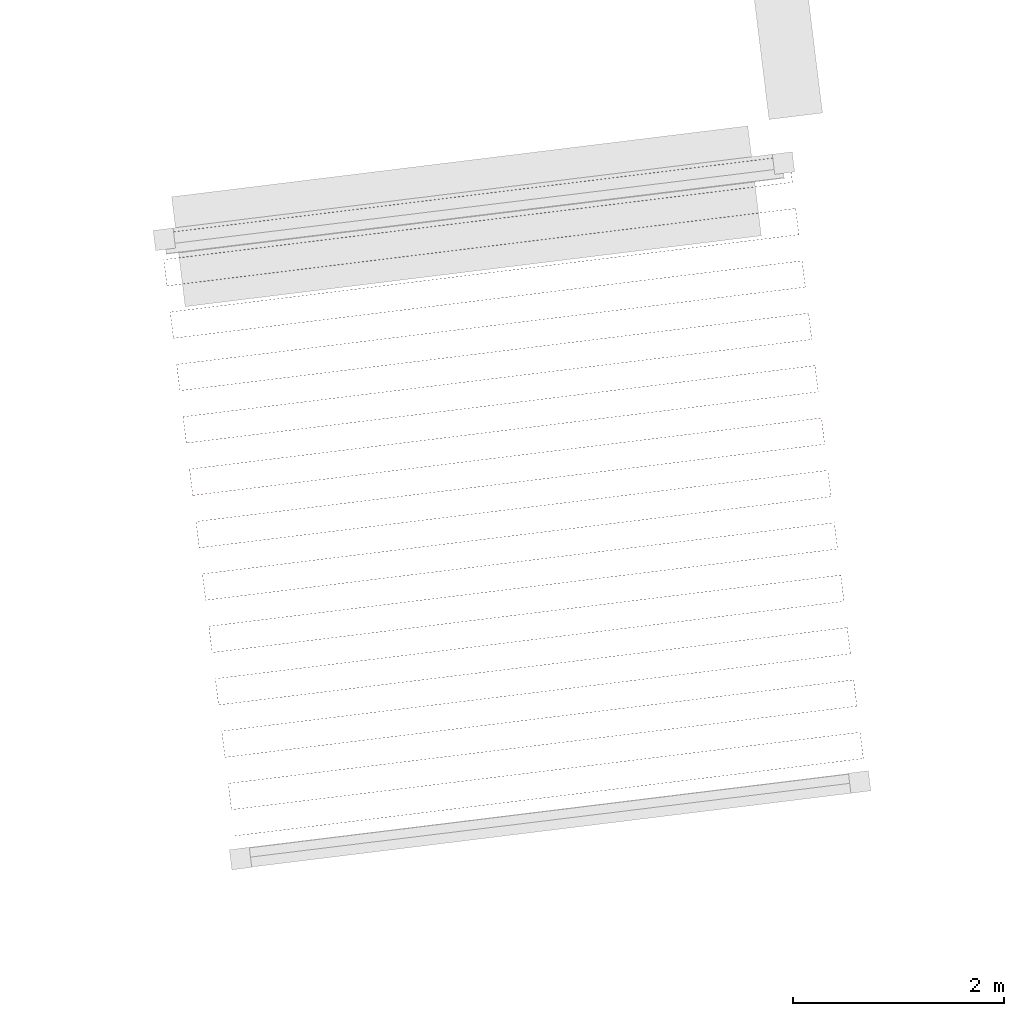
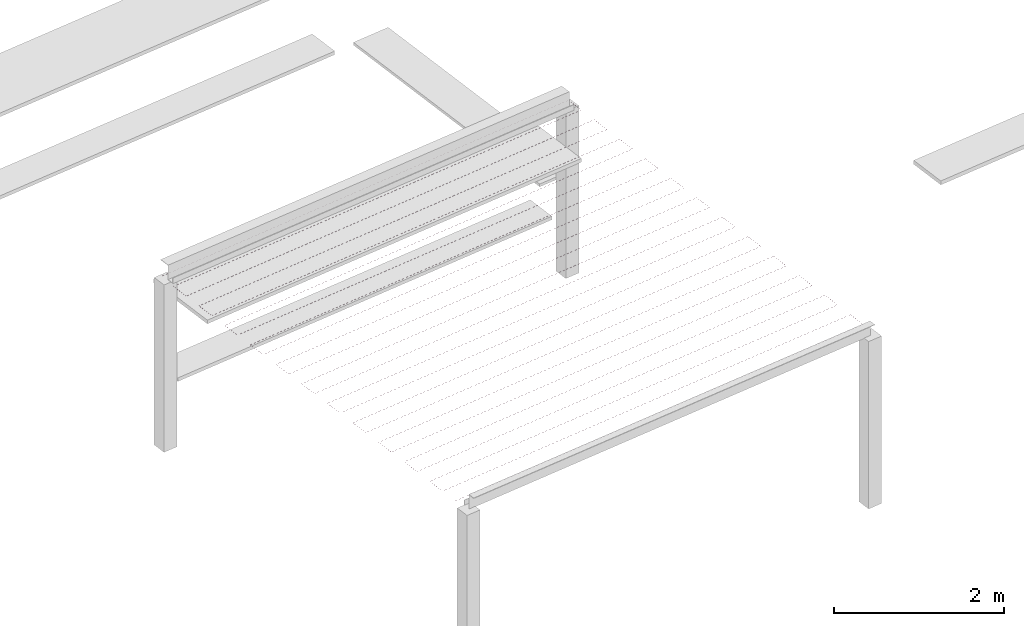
# One storey, part 8 of 10: 1 furnishing.
"""IFC2X3 building model written with IfcOpenShell, lengths in metres."""

from ifc_helpers import new_model, entity, si_unit, converted_unit, derived_unit, direction, frame, origin, place, context, subcontext, project, spatial, faceted_brep, source, transform, mapped, material, type_object, type_shapes, element, save


model = new_model("IFC2X3")

# Units and contexts
model_context = context("Model", 3, precision=1e-05, world=origin(), true_north=direction((6.123031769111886e-17, 1.0)))
body_context = subcontext(model_context, "Body", "Model", "MODEL_VIEW")
ifc_project = project(units=[si_unit("LENGTHUNIT", "METRE"), si_unit("AREAUNIT", "SQUARE_METRE"), si_unit("VOLUMEUNIT", "CUBIC_METRE"), converted_unit("PLANEANGLEUNIT", "DEGREE", entity("IfcRatioMeasure", 0.017453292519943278), si_unit("PLANEANGLEUNIT", "RADIAN"), dimensions=[0, 0, 0, 0, 0, 0, 0]), si_unit("MASSUNIT", "GRAM", prefix="KILO"), derived_unit("MASSDENSITYUNIT", [(si_unit("MASSUNIT", "GRAM", prefix="KILO"), 1), (si_unit("LENGTHUNIT", "METRE"), -3)]), derived_unit("IONCONCENTRATIONUNIT", [(si_unit("MASSUNIT", "GRAM", prefix="KILO"), 1), (si_unit("LENGTHUNIT", "METRE"), -3)]), derived_unit("MOMENTOFINERTIAUNIT", [(si_unit("LENGTHUNIT", "METRE"), 4)]), si_unit("TIMEUNIT", "SECOND"), si_unit("FREQUENCYUNIT", "HERTZ"), si_unit("THERMODYNAMICTEMPERATUREUNIT", "DEGREE_CELSIUS"), derived_unit("THERMALTRANSMITTANCEUNIT", [(si_unit("MASSUNIT", "GRAM", prefix="KILO"), 1), (si_unit("THERMODYNAMICTEMPERATUREUNIT", "KELVIN"), -1), (si_unit("TIMEUNIT", "SECOND"), -3)]), derived_unit("THERMALCONDUCTANCEUNIT", [(si_unit("MASSUNIT", "GRAM", prefix="KILO"), 1), (si_unit("THERMODYNAMICTEMPERATUREUNIT", "KELVIN"), -1), (si_unit("TIMEUNIT", "SECOND"), -3), (si_unit("LENGTHUNIT", "METRE"), 1)]), derived_unit("VOLUMETRICFLOWRATEUNIT", [(si_unit("LENGTHUNIT", "METRE"), 3), (si_unit("TIMEUNIT", "SECOND"), -1)]), derived_unit("MASSFLOWRATEUNIT", [(si_unit("MASSUNIT", "GRAM", prefix="KILO"), 1), (si_unit("TIMEUNIT", "SECOND"), -1)]), derived_unit("ROTATIONALFREQUENCYUNIT", [(si_unit("TIMEUNIT", "SECOND"), -1)]), si_unit("ELECTRICCURRENTUNIT", "AMPERE"), si_unit("ELECTRICVOLTAGEUNIT", "VOLT"), si_unit("POWERUNIT", "WATT"), si_unit("FORCEUNIT", "NEWTON", prefix="KILO"), si_unit("ILLUMINANCEUNIT", "LUX"), si_unit("LUMINOUSFLUXUNIT", "LUMEN"), si_unit("LUMINOUSINTENSITYUNIT", "CANDELA"), derived_unit("USERDEFINED", [(si_unit("MASSUNIT", "GRAM", prefix="KILO"), -1), (si_unit("LENGTHUNIT", "METRE"), -2), (si_unit("TIMEUNIT", "SECOND"), 3), (si_unit("LUMINOUSFLUXUNIT", "LUMEN"), 1)]), derived_unit("USERDEFINED", [(si_unit("MASSUNIT", "GRAM", prefix="KILO"), 1), (si_unit("TIMEUNIT", "SECOND"), -3), (si_unit("LENGTHUNIT", "METRE"), 3), (si_unit("ELECTRICCURRENTUNIT", "AMPERE"), -2)]), derived_unit("SOUNDPOWERUNIT", [(si_unit("MASSUNIT", "GRAM", prefix="KILO"), 1), (si_unit("TIMEUNIT", "SECOND"), -3), (si_unit("LENGTHUNIT", "METRE"), 2)]), derived_unit("SOUNDPRESSUREUNIT", [(si_unit("MASSUNIT", "GRAM", prefix="KILO"), 1), (si_unit("LENGTHUNIT", "METRE"), -1), (si_unit("TIMEUNIT", "SECOND"), -2)]), derived_unit("LINEARVELOCITYUNIT", [(si_unit("LENGTHUNIT", "METRE"), 1), (si_unit("TIMEUNIT", "SECOND"), -1)]), si_unit("PRESSUREUNIT", "PASCAL"), derived_unit("USERDEFINED", [(si_unit("MASSUNIT", "GRAM", prefix="KILO"), 1), (si_unit("LENGTHUNIT", "METRE"), -2), (si_unit("TIMEUNIT", "SECOND"), -2)]), derived_unit("LINEARFORCEUNIT", [(si_unit("MASSUNIT", "GRAM", prefix="KILO"), 1), (si_unit("TIMEUNIT", "SECOND"), -2)]), derived_unit("PLANARFORCEUNIT", [(si_unit("MASSUNIT", "GRAM", prefix="KILO"), 1), (si_unit("LENGTHUNIT", "METRE"), -1), (si_unit("TIMEUNIT", "SECOND"), -2)]), derived_unit("SPECIFICHEATCAPACITYUNIT", [(si_unit("THERMODYNAMICTEMPERATUREUNIT", "KELVIN"), -1), (si_unit("LENGTHUNIT", "METRE"), 2), (si_unit("TIMEUNIT", "SECOND"), -2)]), derived_unit("HEATINGVALUEUNIT", [(si_unit("LENGTHUNIT", "METRE"), 2), (si_unit("TIMEUNIT", "SECOND"), -2)]), derived_unit("VAPORPERMEABILITYUNIT", [(si_unit("LENGTHUNIT", "METRE"), -1), (si_unit("TIMEUNIT", "SECOND"), 1)]), derived_unit("DYNAMICVISCOSITYUNIT", [(si_unit("MASSUNIT", "GRAM", prefix="KILO"), 1), (si_unit("TIMEUNIT", "SECOND"), -1), (si_unit("LENGTHUNIT", "METRE"), -1)]), derived_unit("THERMALEXPANSIONCOEFFICIENTUNIT", [(si_unit("THERMODYNAMICTEMPERATUREUNIT", "KELVIN"), -1)]), derived_unit("MODULUSOFELASTICITYUNIT", [(si_unit("MASSUNIT", "GRAM", prefix="KILO"), 1), (si_unit("LENGTHUNIT", "METRE"), -1), (si_unit("TIMEUNIT", "SECOND"), -2)]), derived_unit("ISOTHERMALMOISTURECAPACITYUNIT", [(si_unit("LENGTHUNIT", "METRE"), 3), (si_unit("MASSUNIT", "GRAM", prefix="KILO"), -1)]), derived_unit("MOISTUREDIFFUSIVITYUNIT", [(si_unit("TIMEUNIT", "SECOND"), -1), (si_unit("LENGTHUNIT", "METRE"), 2)])], contexts=[model_context])

# Site, building, storey
site_placement = place(None, origin())
site = spatial("IfcSite", under=ifc_project, at=site_placement, Name="Default", CompositionType="ELEMENT")
building_placement = place(site_placement, origin())
building = spatial("IfcBuilding", under=site, at=building_placement, Name="Projeto", CompositionType="ELEMENT")
storey_placement = place(building_placement, frame((0.0, 0.0, -2.581035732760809)))
storey = spatial("IfcBuildingStorey", under=building, at=storey_placement, Name="Nível 9", CompositionType="ELEMENT", Elevation=-2.581035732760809)

# Furnishing
ifc_material = material(Name="Aço")
furniture_type = type_object("IfcFurnitureType", Name="Pergolado3:Pergolado", material=ifc_material)
shared_shape = source(origin(), body_context, "Body", "Brep", [
    faceted_brep([(0.0017174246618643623, 5.709528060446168, 0.003595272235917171), (0.0015952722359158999, 5.7105205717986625, 0.002595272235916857), (0.0017174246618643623, 5.709528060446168, 0.0015952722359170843), (0.0018395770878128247, 5.708535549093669, 0.002595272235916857), (0.704093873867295, 0.0025877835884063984, 0.0015952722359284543), (0.7042160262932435, 0.0015952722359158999, 0.002595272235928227), (0.704093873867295, 0.0025877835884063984, 0.003595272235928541), (0.7039717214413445, 0.0035802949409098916, 0.002595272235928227), (6.5370095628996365, 1.7280136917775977, 0.0035952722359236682), (6.535894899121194, 1.7288840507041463, 0.0025952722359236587), (2.0705863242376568, 1.1793202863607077, 0.002595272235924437), (0.5808267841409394, 0.9959694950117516, 0.0025952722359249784), (0.5819414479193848, 0.9950991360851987, 0.0035952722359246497), (2.0707084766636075, 1.1783277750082, 0.0035952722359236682), (2.0708306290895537, 1.1773352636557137, 0.0025952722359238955), (6.538124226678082, 1.7271433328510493, 0.0025952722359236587), (0.583056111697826, 0.9942287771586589, 0.0025952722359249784), (0.5819414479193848, 0.9950991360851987, 0.0015952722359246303), (2.0707084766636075, 1.1783277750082, 0.0015952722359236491), (6.5370095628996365, 1.7280136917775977, 0.0015952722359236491), (0.42838055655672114, 2.234623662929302, 0.002595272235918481), (1.9181400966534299, 2.4179744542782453, 0.002595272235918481), (6.383448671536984, 2.9675382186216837, 0.0025952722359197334), (6.38431903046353, 2.968652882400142, 0.0035952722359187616), (1.9180179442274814, 2.41896696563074, 0.0035952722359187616), (0.42925091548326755, 2.2357383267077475, 0.0035952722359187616), (6.385189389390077, 2.9697675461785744, 0.002595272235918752), (1.9178957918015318, 2.419959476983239, 0.002595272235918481), (0.4301212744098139, 2.236852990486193, 0.002595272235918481), (6.38431903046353, 2.968652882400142, 0.0015952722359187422), (1.9180179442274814, 2.41896696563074, 0.0015952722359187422), (0.42925091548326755, 2.2357383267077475, 0.0015952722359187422), (6.413742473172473, 2.721395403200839, 0.0025952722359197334), (6.414857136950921, 2.7205250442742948, 0.003595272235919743), (6.444524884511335, 2.4712825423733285, 0.002595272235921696), (6.474818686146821, 2.225139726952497, 0.002595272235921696), (6.47593334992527, 2.2242693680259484, 0.0035952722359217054), (6.445395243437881, 2.4723972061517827, 0.003595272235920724), (6.505601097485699, 1.975026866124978, 0.0025952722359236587), (6.506471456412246, 1.9761415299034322, 0.003595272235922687), (6.566677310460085, 1.4787711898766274, 0.0025952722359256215), (6.596971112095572, 1.2326283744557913, 0.0025952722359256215), (6.598085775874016, 1.2317580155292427, 0.003595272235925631), (6.567547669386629, 1.47988585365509, 0.0035952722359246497), (6.627753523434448, 0.9825155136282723, 0.002595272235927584), (6.658047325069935, 0.7363726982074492, 0.002595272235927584), (6.6591619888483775, 0.7355023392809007, 0.0035952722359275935), (6.628623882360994, 0.9836301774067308, 0.003595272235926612), (5.95591518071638, 6.441327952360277, 0.00259527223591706), (5.986208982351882, 6.195185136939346, 0.0025952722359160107), (5.987323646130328, 6.194314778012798, 0.0035952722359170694), (5.956785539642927, 6.44244261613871, 0.0035952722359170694), (6.016991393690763, 5.945072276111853, 0.002595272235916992), (6.047285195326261, 5.698929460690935, 0.002595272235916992), (6.0483998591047, 5.698059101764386, 0.0035952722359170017), (6.017861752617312, 5.946186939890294, 0.0035952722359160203), (6.078067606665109, 5.448816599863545, 0.0025952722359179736), (6.108361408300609, 5.202673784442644, 0.0025952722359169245), (6.109476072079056, 5.201803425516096, 0.003595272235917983), (6.078937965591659, 5.449931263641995, 0.003595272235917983), (6.1391438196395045, 4.952560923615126, 0.002595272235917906), (6.169437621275, 4.7064181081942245, 0.002595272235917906), (6.170552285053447, 4.705547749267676, 0.0035952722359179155), (6.140014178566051, 4.953675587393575, 0.003595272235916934), (6.200220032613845, 4.456305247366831, 0.0025952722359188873), (6.230513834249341, 4.21016243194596, 0.0025952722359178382), (6.231628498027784, 4.209292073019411, 0.003595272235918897), (6.201090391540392, 4.457419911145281, 0.003595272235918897), (6.2612962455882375, 3.9600495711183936, 0.0025952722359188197), (6.291590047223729, 3.7139067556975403, 0.0025952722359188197), (6.292704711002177, 3.713036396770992, 0.0035952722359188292), (6.262166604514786, 3.961164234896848, 0.003595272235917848), (6.322372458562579, 3.463793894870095, 0.002595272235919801), (6.35266626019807, 3.2176510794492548, 0.002595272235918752), (6.353780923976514, 3.2167807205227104, 0.0035952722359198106), (6.323242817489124, 3.464908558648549, 0.0035952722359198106), (6.415971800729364, 2.7196546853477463, 0.0025952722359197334), (6.477048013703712, 2.2233990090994, 0.002595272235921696), (6.44626560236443, 2.4735118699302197, 0.0025952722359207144), (6.507341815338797, 1.977256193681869, 0.0025952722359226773), (6.599200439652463, 1.2308876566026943, 0.0025952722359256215), (6.568418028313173, 1.4810005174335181, 0.00259527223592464), (6.660276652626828, 0.7346319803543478, 0.002595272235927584), (6.629494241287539, 0.9847448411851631, 0.0025952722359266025), (5.988438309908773, 6.193444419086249, 0.00259527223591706), (5.957655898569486, 6.443557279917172, 0.00259527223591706), (6.049514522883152, 5.697188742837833, 0.002595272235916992), (6.0187321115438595, 5.947301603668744, 0.0025952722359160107), (6.1105907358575, 5.200933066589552, 0.0025952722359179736), (6.079808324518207, 5.451045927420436, 0.0025952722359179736), (6.171666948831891, 4.704677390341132, 0.002595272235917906), (6.140884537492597, 4.9547902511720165, 0.0025952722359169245), (6.232743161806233, 4.208421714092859, 0.0025952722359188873), (6.201960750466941, 4.458534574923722, 0.0025952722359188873), (6.29381937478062, 3.712166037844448, 0.0025952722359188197), (6.263036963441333, 3.962278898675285, 0.0025952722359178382), (6.354895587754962, 3.2159103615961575, 0.002595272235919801), (6.3241131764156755, 3.466023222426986, 0.002595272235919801), (6.41485713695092, 2.7205250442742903, 0.0015952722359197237), (6.47593334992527, 2.2242693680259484, 0.0015952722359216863), (6.445395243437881, 2.4723972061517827, 0.001595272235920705), (6.506471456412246, 1.9761415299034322, 0.0015952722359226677), (6.598085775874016, 1.2317580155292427, 0.0015952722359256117), (6.567547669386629, 1.47988585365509, 0.0015952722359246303), (6.659161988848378, 0.7355023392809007, 0.0015952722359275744), (6.628623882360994, 0.9836301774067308, 0.0015952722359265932), (5.987323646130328, 6.194314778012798, 0.0015952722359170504), (5.956785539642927, 6.44244261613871, 0.0015952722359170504), (6.0483998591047, 5.698059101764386, 0.0015952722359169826), (6.017861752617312, 5.946186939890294, 0.0015952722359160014), (6.109476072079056, 5.201803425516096, 0.001595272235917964), (6.078937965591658, 5.449931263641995, 0.001595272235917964), (6.170552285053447, 4.705547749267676, 0.0015952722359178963), (6.140014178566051, 4.953675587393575, 0.001595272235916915), (6.231628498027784, 4.209292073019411, 0.0015952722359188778), (6.201090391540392, 4.457419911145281, 0.0015952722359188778), (6.292704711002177, 3.713036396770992, 0.00159527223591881), (6.262166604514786, 3.961164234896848, 0.0015952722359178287), (6.353780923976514, 3.2167807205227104, 0.0015952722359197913), (6.323242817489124, 3.464908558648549, 0.0015952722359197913), (1.9484338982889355, 2.1718316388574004, 0.0025952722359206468), (0.4586743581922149, 1.988480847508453, 0.0025952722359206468), (0.45978902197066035, 1.9876104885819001, 0.003595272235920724), (1.9485560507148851, 2.1708391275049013, 0.003595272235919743), (1.9486782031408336, 2.1698466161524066, 0.002595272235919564), (0.46090368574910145, 1.986740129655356, 0.0025952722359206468), (0.45978902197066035, 1.9876104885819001, 0.001595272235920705), (1.9485560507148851, 2.1708391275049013, 0.0015952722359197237), (0.48945676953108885, 1.738367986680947, 0.0025952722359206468), (0.4903271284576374, 1.7394826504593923, 0.003595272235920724), (0.5197505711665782, 1.492225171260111, 0.0025952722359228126), (0.5505329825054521, 1.2421123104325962, 0.0025952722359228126), (0.5514033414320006, 1.2432269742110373, 0.003595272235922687), (0.5208652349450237, 1.4913548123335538, 0.003595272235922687), (0.6116091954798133, 0.7458566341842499, 0.0025952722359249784), (0.612479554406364, 0.7469712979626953, 0.0035952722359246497), (0.6419029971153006, 0.49971381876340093, 0.002595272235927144), (0.6726854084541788, 0.2496009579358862, 0.002595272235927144), (0.6735557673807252, 0.25071562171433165, 0.003595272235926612), (0.643017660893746, 0.4988434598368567, 0.003595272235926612), (0.03114086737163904, 5.462270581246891, 0.0025952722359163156), (0.061923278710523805, 5.212157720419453, 0.0025952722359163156), (0.06279363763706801, 5.213272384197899, 0.0035952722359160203), (0.032255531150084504, 5.461400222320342, 0.0035952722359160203), (0.09221708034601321, 4.966014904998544, 0.002595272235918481), (0.1229994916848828, 4.715902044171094, 0.002595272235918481), (0.12386985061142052, 4.71701670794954, 0.003595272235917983), (0.09333174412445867, 4.965144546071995, 0.003595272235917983), (0.15329329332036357, 4.469759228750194, 0.0025952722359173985), (0.18407570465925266, 4.219646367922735, 0.0025952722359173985), (0.18494606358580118, 4.220761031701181, 0.003595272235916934), (0.15440795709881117, 4.46888886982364, 0.003595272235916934), (0.21436950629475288, 3.9735035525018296, 0.002595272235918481), (0.24515191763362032, 3.7233906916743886, 0.002595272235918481), (0.24602227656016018, 3.72450535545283, 0.003595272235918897), (0.21548417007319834, 3.972633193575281, 0.003595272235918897), (0.2754457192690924, 3.4772478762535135, 0.0025952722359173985), (0.3062281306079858, 3.2271350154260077, 0.0025952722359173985), (0.30709848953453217, 3.228249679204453, 0.003595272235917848), (0.2765603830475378, 3.4763775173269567, 0.003595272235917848), (0.3365219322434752, 2.98099220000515, 0.002595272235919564), (0.36730434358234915, 2.7308793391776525, 0.002595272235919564), (0.3681747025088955, 2.7319940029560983, 0.0035952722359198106), (0.3376365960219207, 2.980121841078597, 0.0035952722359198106), (0.3975981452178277, 2.4847365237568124, 0.002595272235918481), (0.3987128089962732, 2.4838661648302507, 0.0035952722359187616), (0.49119748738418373, 1.740597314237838, 0.0025952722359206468), (0.5522737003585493, 1.2443416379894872, 0.0025952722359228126), (0.5219798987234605, 1.4904844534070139, 0.0025952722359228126), (0.6133499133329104, 0.7480859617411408, 0.0025952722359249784), (0.6744261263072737, 0.25183028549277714, 0.002595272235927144), (0.6441323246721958, 0.49797310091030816, 0.002595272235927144), (0.06366399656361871, 5.214387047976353, 0.0025952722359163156), (0.03337019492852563, 5.460529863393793, 0.0025952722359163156), (0.12474020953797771, 4.718131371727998, 0.002595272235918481), (0.09444640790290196, 4.964274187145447, 0.002595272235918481), (0.18581642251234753, 4.221875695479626, 0.0025952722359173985), (0.1555226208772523, 4.468018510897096, 0.0025952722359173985), (0.24689263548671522, 3.725620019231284, 0.002595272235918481), (0.21659883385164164, 3.971762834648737, 0.002595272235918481), (0.30796884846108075, 3.229364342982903, 0.0025952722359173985), (0.2776750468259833, 3.4755071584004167, 0.0025952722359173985), (0.36904506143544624, 2.733108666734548, 0.002595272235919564), (0.3387512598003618, 2.979251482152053, 0.002595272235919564), (0.3998274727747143, 2.482995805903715, 0.002595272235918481), (0.4903271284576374, 1.7394826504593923, 0.001595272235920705), (0.5514033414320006, 1.2432269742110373, 0.0015952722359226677), (0.5208652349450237, 1.4913548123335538, 0.0015952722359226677), (0.612479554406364, 0.7469712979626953, 0.0015952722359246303), (0.6735557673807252, 0.25071562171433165, 0.0015952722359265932), (0.643017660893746, 0.4988434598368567, 0.0015952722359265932), (0.06279363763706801, 5.213272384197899, 0.0015952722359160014), (0.032255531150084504, 5.461400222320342, 0.0015952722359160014), (0.12386985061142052, 4.71701670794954, 0.001595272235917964), (0.09333174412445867, 4.965144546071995, 0.001595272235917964), (0.18494606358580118, 4.220761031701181, 0.001595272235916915), (0.15440795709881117, 4.46888886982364, 0.001595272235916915), (0.24602227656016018, 3.72450535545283, 0.0015952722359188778), (0.21548417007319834, 3.972633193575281, 0.0015952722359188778), (0.30709848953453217, 3.228249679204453, 0.0015952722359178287), (0.2765603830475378, 3.4763775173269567, 0.0015952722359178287), (0.3681747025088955, 2.7319940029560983, 0.0015952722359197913), (0.3376365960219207, 2.980121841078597, 0.0015952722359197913), (0.3987128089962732, 2.4838661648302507, 0.0015952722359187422), (1.979216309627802, 1.92171877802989, 0.0025952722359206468), (1.9790941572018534, 1.9227112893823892, 0.003595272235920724), (1.978972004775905, 1.9237038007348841, 0.0025952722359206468), (1.9790941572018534, 1.9227112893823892, 0.001595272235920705), (2.009510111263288, 1.6755759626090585, 0.0025952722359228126), (2.0096322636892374, 1.674583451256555, 0.0035952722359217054), (2.009754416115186, 1.6735909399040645, 0.0025952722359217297), (2.0096322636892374, 1.674583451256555, 0.0015952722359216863), (2.040292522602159, 1.4254631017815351, 0.0025952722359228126), (2.0401703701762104, 1.4264556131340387, 0.003595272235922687), (2.040048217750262, 1.4274481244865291, 0.0025952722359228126), (2.0401703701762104, 1.4264556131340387, 0.0015952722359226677), (2.101368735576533, 0.929207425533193, 0.002595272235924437), (2.1012465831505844, 0.9301999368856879, 0.0035952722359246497), (2.101124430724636, 0.931192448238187, 0.002595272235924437), (2.1012465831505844, 0.9301999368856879, 0.0015952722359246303), (2.131662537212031, 0.6830646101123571, 0.0025952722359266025), (2.1317846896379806, 0.6820720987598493, 0.003595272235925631), (2.1319068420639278, 0.6810795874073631, 0.0025952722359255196), (2.1317846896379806, 0.6820720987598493, 0.0015952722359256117), (2.1624449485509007, 0.4329517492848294, 0.0025952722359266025), (2.1623227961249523, 0.4339442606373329, 0.003595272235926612), (2.1622006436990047, 0.4349367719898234, 0.0025952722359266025), (2.1623227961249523, 0.4339442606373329, 0.0015952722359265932), (2.1927387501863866, 0.18680893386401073, 0.0025952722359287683), (2.1928609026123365, 0.18581642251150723, 0.0035952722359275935), (2.1929830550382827, 0.18482391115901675, 0.0025952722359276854), (2.1928609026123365, 0.18581642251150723, 0.0015952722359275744), (1.5516828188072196, 5.395508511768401, 0.002595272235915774), (1.551560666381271, 5.3965010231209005, 0.0035952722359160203), (1.5514385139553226, 5.397493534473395, 0.002595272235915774), (1.551560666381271, 5.3965010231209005, 0.0015952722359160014), (1.581976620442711, 5.149365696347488, 0.0025952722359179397), (1.5820987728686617, 5.148373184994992, 0.0035952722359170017), (1.582220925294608, 5.147380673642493, 0.002595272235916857), (1.5820987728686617, 5.148373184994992, 0.0015952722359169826), (1.673835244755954, 4.402997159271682, 0.002595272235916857), (1.6737130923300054, 4.403989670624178, 0.003595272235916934), (1.673590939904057, 4.404982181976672, 0.002595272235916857), (1.6737130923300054, 4.403989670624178, 0.001595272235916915), (1.7041290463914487, 4.156854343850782, 0.0025952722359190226), (1.7042511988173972, 4.155861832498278, 0.0035952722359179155), (1.7043733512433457, 4.154869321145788, 0.0025952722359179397), (1.7042511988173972, 4.155861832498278, 0.0015952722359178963), (1.7959876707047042, 3.4104858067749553, 0.0025952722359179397), (1.795865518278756, 3.41147831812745, 0.003595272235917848), (1.7957433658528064, 3.412470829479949, 0.0025952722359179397), (1.795865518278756, 3.41147831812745, 0.0015952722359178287), (1.8262814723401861, 3.164342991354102, 0.002595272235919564), (1.8264036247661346, 3.1633504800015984, 0.0035952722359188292), (1.826525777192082, 3.1623579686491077, 0.0025952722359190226), (1.8264036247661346, 3.1633504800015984, 0.00159527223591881)], [[[0, 1, 2, 3]], [[4, 5, 6, 7]], [[8, 9, 10, 11, 12, 13]], [[14, 15, 8, 13, 12, 16]], [[14, 16, 17, 18, 19, 15]], [[18, 17, 11, 10, 9, 19]], [[20, 21, 22, 23, 24, 25]], [[24, 23, 26, 27, 28, 25]], [[28, 27, 26, 29, 30, 31]], [[21, 20, 31, 30, 29, 22]], [[22, 32, 33, 23]], [[34, 35, 36, 37]], [[38, 9, 8, 39]], [[40, 41, 42, 43]], [[44, 45, 46, 47]], [[48, 49, 50, 51]], [[52, 53, 54, 55]], [[56, 57, 58, 59]], [[60, 61, 62, 63]], [[64, 65, 66, 67]], [[68, 69, 70, 71]], [[72, 73, 74, 75]], [[33, 76, 26, 23]], [[36, 77, 78, 37]], [[8, 15, 79, 39]], [[42, 80, 81, 43]], [[46, 82, 83, 47]], [[50, 84, 85, 51]], [[54, 86, 87, 55]], [[58, 88, 89, 59]], [[62, 90, 91, 63]], [[66, 92, 93, 67]], [[70, 94, 95, 71]], [[74, 96, 97, 75]], [[26, 76, 98, 29]], [[78, 77, 99, 100]], [[79, 15, 19, 101]], [[81, 80, 102, 103]], [[83, 82, 104, 105]], [[85, 84, 106, 107]], [[87, 86, 108, 109]], [[89, 88, 110, 111]], [[91, 90, 112, 113]], [[93, 92, 114, 115]], [[95, 94, 116, 117]], [[97, 96, 118, 119]], [[98, 32, 22, 29]], [[99, 35, 34, 100]], [[19, 9, 38, 101]], [[102, 41, 40, 103]], [[104, 45, 44, 105]], [[106, 49, 48, 107]], [[108, 53, 52, 109]], [[110, 57, 56, 111]], [[112, 61, 60, 113]], [[114, 65, 64, 115]], [[116, 69, 68, 117]], [[118, 73, 72, 119]], [[33, 32, 120, 121, 122, 123]], [[124, 76, 33, 123, 122, 125]], [[124, 125, 126, 127, 98, 76]], [[127, 126, 121, 120, 32, 98]], [[121, 128, 129, 122]], [[130, 131, 132, 133]], [[11, 134, 135, 12]], [[136, 137, 138, 139]], [[140, 141, 142, 143]], [[144, 145, 146, 147]], [[148, 149, 150, 151]], [[152, 153, 154, 155]], [[156, 157, 158, 159]], [[160, 161, 162, 163]], [[164, 20, 25, 165]], [[129, 166, 125, 122]], [[132, 167, 168, 133]], [[135, 169, 16, 12]], [[138, 170, 171, 139]], [[142, 172, 173, 143]], [[146, 174, 175, 147]], [[150, 176, 177, 151]], [[154, 178, 179, 155]], [[158, 180, 181, 159]], [[162, 182, 183, 163]], [[25, 28, 184, 165]], [[125, 166, 185, 126]], [[168, 167, 186, 187]], [[16, 169, 188, 17]], [[171, 170, 189, 190]], [[173, 172, 191, 192]], [[175, 174, 193, 194]], [[177, 176, 195, 196]], [[179, 178, 197, 198]], [[181, 180, 199, 200]], [[183, 182, 201, 202]], [[184, 28, 31, 203]], [[185, 128, 121, 126]], [[186, 131, 130, 187]], [[188, 134, 11, 17]], [[189, 137, 136, 190]], [[191, 141, 140, 192]], [[193, 145, 144, 194]], [[195, 149, 148, 196]], [[197, 153, 152, 198]], [[199, 157, 156, 200]], [[201, 161, 160, 202]], [[31, 20, 164, 203]], [[128, 204, 34, 37, 205, 129]], [[205, 37, 78, 206, 166, 129]], [[166, 206, 78, 100, 207, 185]], [[204, 128, 185, 207, 100, 34]], [[36, 35, 208, 130, 133, 209]], [[210, 77, 36, 209, 133, 168]], [[210, 168, 187, 211, 99, 77]], [[211, 187, 130, 208, 35, 99]], [[131, 212, 38, 39, 213, 132]], [[213, 39, 79, 214, 167, 132]], [[186, 167, 214, 79, 101, 215]], [[212, 131, 186, 215, 101, 38]], [[134, 216, 40, 43, 217, 135]], [[217, 43, 81, 218, 169, 135]], [[188, 169, 218, 81, 103, 219]], [[216, 134, 188, 219, 103, 40]], [[42, 41, 220, 136, 139, 221]], [[222, 80, 42, 221, 139, 171]], [[222, 171, 190, 223, 102, 80]], [[223, 190, 136, 220, 41, 102]], [[137, 224, 44, 47, 225, 138]], [[225, 47, 83, 226, 170, 138]], [[189, 170, 226, 83, 105, 227]], [[224, 137, 189, 227, 105, 44]], [[46, 45, 228, 7, 6, 229]], [[230, 82, 46, 229, 6, 5]], [[230, 5, 4, 231, 104, 82]], [[231, 4, 7, 228, 45, 104]], [[3, 48, 51, 0]], [[51, 85, 1, 0]], [[1, 85, 107, 2]], [[48, 3, 2, 107]], [[50, 49, 140, 143]], [[173, 84, 50, 143]], [[173, 192, 106, 84]], [[192, 140, 49, 106]], [[141, 232, 52, 55, 233, 142]], [[233, 55, 87, 234, 172, 142]], [[191, 172, 234, 87, 109, 235]], [[232, 141, 191, 235, 109, 52]], [[54, 53, 236, 144, 147, 237]], [[238, 86, 54, 237, 147, 175]], [[238, 175, 194, 239, 108, 86]], [[239, 194, 144, 236, 53, 108]], [[145, 56, 59, 146]], [[59, 89, 174, 146]], [[193, 174, 89, 111]], [[56, 145, 193, 111]], [[58, 57, 148, 151]], [[177, 88, 58, 151]], [[177, 196, 110, 88]], [[196, 148, 57, 110]], [[149, 240, 60, 63, 241, 150]], [[241, 63, 91, 242, 176, 150]], [[195, 176, 242, 91, 113, 243]], [[240, 149, 195, 243, 113, 60]], [[62, 61, 244, 152, 155, 245]], [[246, 90, 62, 245, 155, 179]], [[246, 179, 198, 247, 112, 90]], [[247, 198, 152, 244, 61, 112]], [[153, 64, 67, 154]], [[67, 93, 178, 154]], [[178, 93, 115, 197]], [[64, 153, 197, 115]], [[66, 65, 156, 159]], [[181, 92, 66, 159]], [[181, 200, 114, 92]], [[200, 156, 65, 114]], [[157, 248, 68, 71, 249, 158]], [[249, 71, 95, 250, 180, 158]], [[180, 250, 95, 117, 251, 199]], [[248, 157, 199, 251, 117, 68]], [[70, 69, 252, 160, 163, 253]], [[254, 94, 70, 253, 163, 183]], [[254, 183, 202, 255, 116, 94]], [[255, 202, 160, 252, 69, 116]], [[161, 72, 75, 162]], [[75, 97, 182, 162]], [[182, 97, 119, 201]], [[72, 161, 201, 119]], [[74, 73, 164, 165]], [[184, 96, 74, 165]], [[184, 203, 118, 96]], [[203, 164, 73, 118]]]),
])
type_shapes(furniture_type, [shared_shape])
furnishing_placement = place(storey_placement, frame((-11.395904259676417, 23.21277285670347, 2.383440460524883)))
element("IfcFurnishingElement", 1, at=furnishing_placement, inside=storey, type_object=furniture_type, material=ifc_material, Name="Pergolado3:Pergolado", ObjectType="Pergolado3:Pergolado", context=body_context, shape_type="MappedRepresentation", body=[
    mapped(shared_shape, transform((0.0, 0.0, 0.0), scale=1.0)),
])

save(model, "model.ifc")
